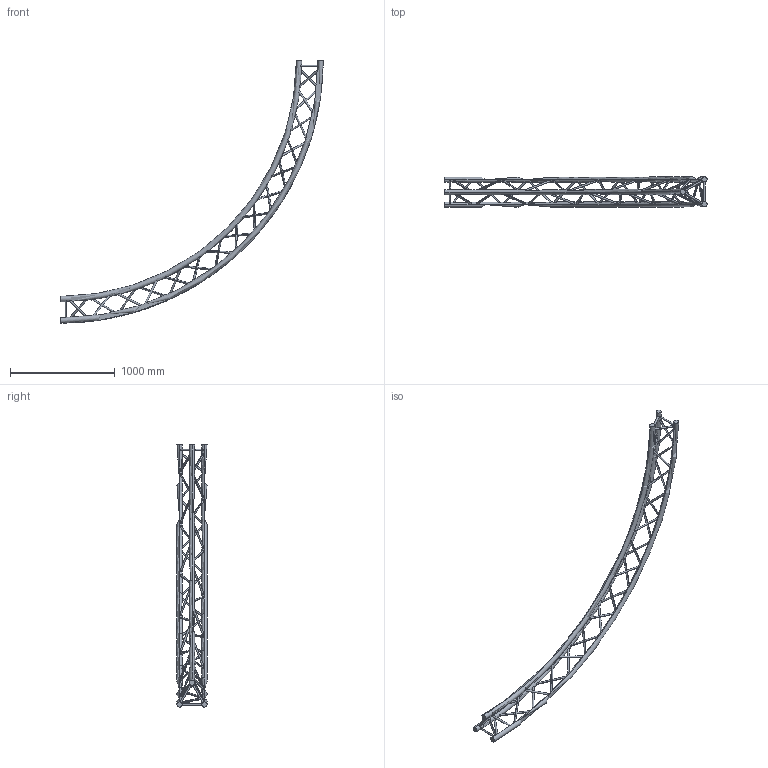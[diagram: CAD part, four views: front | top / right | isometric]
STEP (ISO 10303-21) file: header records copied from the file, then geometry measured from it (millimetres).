
FILE_DESCRIPTION (( 'STEP AP203' ), '1' );
FILE_NAME ('SXC29500PI.STEP', '2009-10-21T09:00:22', ( 'CEDIA' ), ( 'CEDIA INDUSTRIE' ), 'SwSTEP 2.0', 'SolidWorks 2009', '' );
FILE_SCHEMA (( 'CONFIG_CONTROL_DESIGN' ));
Length unit declared in the file: millimetre
Products named in the file (1): SXC29500PI
Bounding box: 2500 x 287 x 2500 mm (x, y, z)
Volume: 24894773.7 mm3; surface area: 2422529 mm2
Topology: 1 solids, 1 shells, 114 faces, 324 edges, 216 vertices
Faces by surface type: cylinder 102, torus 6, plane 6
Entity records: 13035 total; most frequent: CARTESIAN_POINT 10179, ORIENTED_EDGE 648, DIRECTION 368, EDGE_CURVE 324, VERTEX_POINT 216, EDGE_LOOP 216, B_SPLINE_CURVE_WITH_KNOTS 204, AXIS2_PLACEMENT_3D 133
